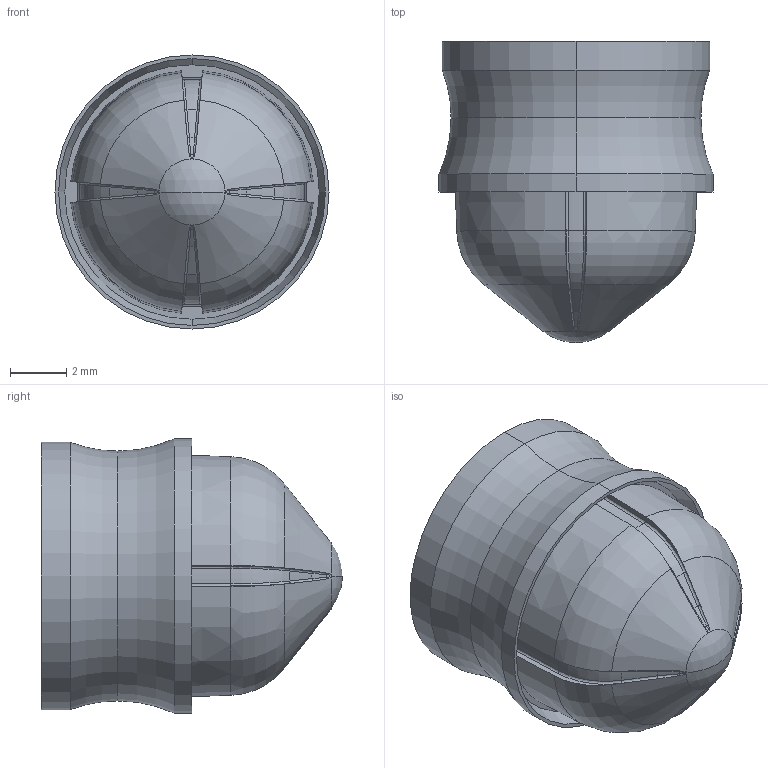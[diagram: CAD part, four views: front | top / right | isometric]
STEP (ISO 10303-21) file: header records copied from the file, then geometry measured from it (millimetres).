
FILE_DESCRIPTION (( 'STEP AP214' ), '1' );
FILE_NAME ('NORDSONEFD-7012031 PISTON O 3CC RD WIPER.STEP', '2019-12-17T14:33:06', ( '' ), ( '' ), 'SwSTEP 2.0', 'SolidWorks 2019', '' );
FILE_SCHEMA (( 'AUTOMOTIVE_DESIGN' ));
Length unit declared in the file: inch
Products named in the file (1): NORDSONEFD-7012031 PISTON O 3CC RD WIPER
Bounding box: 9.72 x 10.67 x 9.72 mm (x, y, z)
Volume: 154.2 mm3; surface area: 664.2 mm2
Topology: 1 solids, 1 shells, 249 faces, 663 edges, 426 vertices
Faces by surface type: bspline 88, plane 67, torus 34, cone 33, cylinder 23, sphere 4
Entity records: 10960 total; most frequent: CARTESIAN_POINT 5418, ORIENTED_EDGE 1326, DIRECTION 908, EDGE_CURVE 663, VERTEX_POINT 426, AXIS2_PLACEMENT_3D 367, B_SPLINE_CURVE_WITH_KNOTS 284, EDGE_LOOP 259
